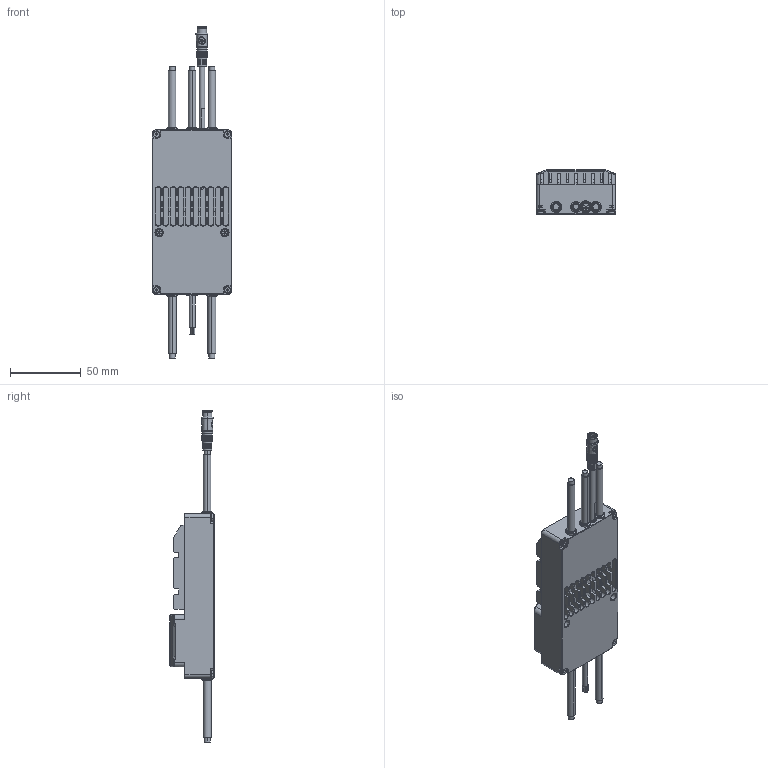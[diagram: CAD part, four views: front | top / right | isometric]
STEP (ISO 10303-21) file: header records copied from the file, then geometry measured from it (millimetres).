
FILE_DESCRIPTION((''),'2;1');
FILE_NAME('MK2','2024-01-24T16:59:06',('221126'),(''),'CREO PARAMETRIC BY PTC INC, 2021284','CREO PARAMETRIC BY PTC INC, 2021284','');
FILE_SCHEMA(('CONFIG_CONTROL_DESIGN'));
Products named in the file (1): MK2
Bounding box: 56 x 31.5 x 234.33 mm (x, y, z)
Volume: 57953.8 mm3; surface area: 69345.1 mm2
Topology: 8 solids, 8 shells, 3307 faces, 8572 edges, 5595 vertices
Faces by surface type: plane 2241, cylinder 663, cone 196, bspline 160, torus 45, extrusion 2
Entity records: 123470 total; most frequent: CARTESIAN_POINT 43081, ORIENTED_EDGE 17144, DIRECTION 15671, EDGE_CURVE 8572, VECTOR 6097, LINE 6095, VERTEX_POINT 5595, AXIS2_PLACEMENT_3D 4787
